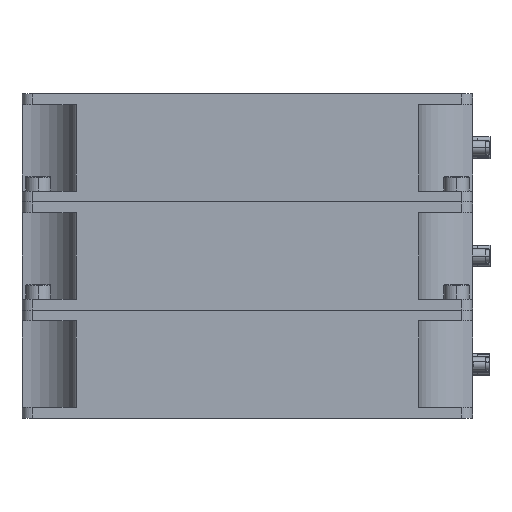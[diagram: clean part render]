
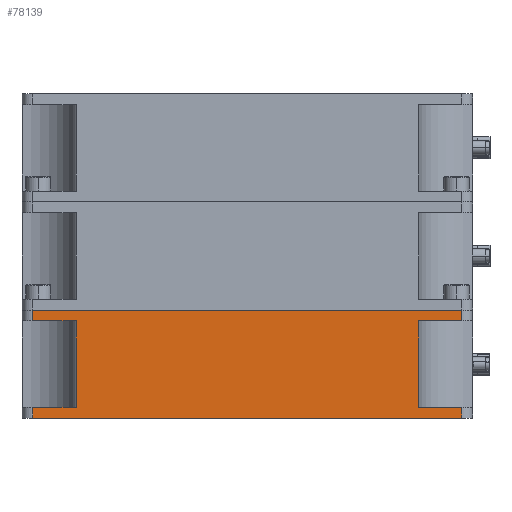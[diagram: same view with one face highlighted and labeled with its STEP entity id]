
A CAD part, left-side view. The second image highlights one B-rep face of the part: STEP entity #78139.
In plain terms, the highlighted planar face has unit normal (-1, 0, 0).
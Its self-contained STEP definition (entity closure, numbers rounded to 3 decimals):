
#281 = AXIS2_PLACEMENT_3D ( 'NONE', #26280, #44645, #50762 ) ;
#2052 = VECTOR ( 'NONE', #16297, 1000. ) ;
#2968 = CARTESIAN_POINT ( 'NONE',  ( -103.713, 72.841, 188. ) ) ;
#3334 = VECTOR ( 'NONE', #9854, 1000. ) ;
#3605 = ORIENTED_EDGE ( 'NONE', *, *, #17018, .T. ) ;
#5689 = DIRECTION ( 'NONE',  ( 0., 0., 1. ) ) ;
#6240 = LINE ( 'NONE', #14133, #46268 ) ;
#6539 = VERTEX_POINT ( 'NONE', #62494 ) ;
#7751 = VECTOR ( 'NONE', #29909, 1000. ) ;
#7815 = EDGE_CURVE ( 'NONE', #71233, #49829, #21484, .T. ) ;
#8037 = CARTESIAN_POINT ( 'NONE',  ( -103.713, 69.841, 215. ) ) ;
#9497 = ORIENTED_EDGE ( 'NONE', *, *, #58119, .T. ) ;
#9854 = DIRECTION ( 'NONE',  ( 0., 0., 1. ) ) ;
#10855 = EDGE_CURVE ( 'NONE', #38573, #71233, #55423, .T. ) ;
#11038 = EDGE_CURVE ( 'NONE', #61583, #38661, #35418, .T. ) ;
#12118 = CARTESIAN_POINT ( 'NONE',  ( -103.713, -37.159, 212. ) ) ;
#12220 = ORIENTED_EDGE ( 'NONE', *, *, #7815, .T. ) ;
#14133 = CARTESIAN_POINT ( 'NONE',  ( -103.713, 72.841, 212. ) ) ;
#14461 = DIRECTION ( 'NONE',  ( 0., -1., 0. ) ) ;
#15371 = ORIENTED_EDGE ( 'NONE', *, *, #41896, .F. ) ;
#15669 = CARTESIAN_POINT ( 'NONE',  ( -103.713, -49.159, 215. ) ) ;
#15739 = CARTESIAN_POINT ( 'NONE',  ( -103.713, -37.159, 200. ) ) ;
#16297 = DIRECTION ( 'NONE',  ( 0., 0., -1. ) ) ;
#16468 = VECTOR ( 'NONE', #14461, 1000. ) ;
#16662 = DIRECTION ( 'NONE',  ( 0., 1., 0. ) ) ;
#16937 = CARTESIAN_POINT ( 'NONE',  ( -103.713, -49.159, 215. ) ) ;
#17003 = DIRECTION ( 'NONE',  ( 0., 1., 0. ) ) ;
#17018 = EDGE_CURVE ( 'NONE', #53503, #6539, #23166, .T. ) ;
#17330 = VECTOR ( 'NONE', #52918, 1000. ) ;
#17707 = CARTESIAN_POINT ( 'NONE',  ( -103.713, -37.159, 188. ) ) ;
#17735 = CARTESIAN_POINT ( 'NONE',  ( -103.713, 57.841, 200. ) ) ;
#18837 = VECTOR ( 'NONE', #17003, 1000. ) ;
#19818 = CARTESIAN_POINT ( 'NONE',  ( -103.713, -49.159, 188. ) ) ;
#20702 = LINE ( 'NONE', #16937, #59786 ) ;
#21484 = LINE ( 'NONE', #15739, #3334 ) ;
#23166 = LINE ( 'NONE', #17735, #62153 ) ;
#24357 = DIRECTION ( 'NONE',  ( 0., 0., -1. ) ) ;
#25727 = ORIENTED_EDGE ( 'NONE', *, *, #28405, .T. ) ;
#26280 = CARTESIAN_POINT ( 'NONE',  ( -103.713, 72.841, 215. ) ) ;
#26811 = LINE ( 'NONE', #40432, #2052 ) ;
#28390 = DIRECTION ( 'NONE',  ( 0., -1., 0. ) ) ;
#28405 = EDGE_CURVE ( 'NONE', #56632, #48265, #66862, .T. ) ;
#28850 = CARTESIAN_POINT ( 'NONE',  ( -103.713, 72.841, 188. ) ) ;
#28880 = EDGE_CURVE ( 'NONE', #46708, #52101, #59150, .T. ) ;
#29597 = LINE ( 'NONE', #64880, #60100 ) ;
#29909 = DIRECTION ( 'NONE',  ( 0., 0., -1. ) ) ;
#30474 = CARTESIAN_POINT ( 'NONE',  ( -103.713, 57.841, 212. ) ) ;
#35418 = LINE ( 'NONE', #38117, #16468 ) ;
#35992 = CARTESIAN_POINT ( 'NONE',  ( -103.713, 69.841, 185. ) ) ;
#36823 = VERTEX_POINT ( 'NONE', #40286 ) ;
#37862 = ORIENTED_EDGE ( 'NONE', *, *, #63263, .T. ) ;
#38117 = CARTESIAN_POINT ( 'NONE',  ( -103.713, 72.841, 185. ) ) ;
#38573 = VERTEX_POINT ( 'NONE', #19818 ) ;
#38575 = VECTOR ( 'NONE', #63058, 1000. ) ;
#38661 = VERTEX_POINT ( 'NONE', #45071 ) ;
#40286 = CARTESIAN_POINT ( 'NONE',  ( -103.713, 69.841, 188. ) ) ;
#40432 = CARTESIAN_POINT ( 'NONE',  ( -103.713, 69.841, 215. ) ) ;
#41612 = LINE ( 'NONE', #2968, #18837 ) ;
#41896 = EDGE_CURVE ( 'NONE', #46708, #48265, #67186, .T. ) ;
#43663 = DIRECTION ( 'NONE',  ( 0., -1., 0. ) ) ;
#44645 = DIRECTION ( 'NONE',  ( 1., 0., 0. ) ) ;
#45071 = CARTESIAN_POINT ( 'NONE',  ( -103.713, -49.159, 185. ) ) ;
#45906 = EDGE_CURVE ( 'NONE', #52101, #53503, #29597, .T. ) ;
#46268 = VECTOR ( 'NONE', #43663, 1000. ) ;
#46708 = VERTEX_POINT ( 'NONE', #8037 ) ;
#47763 = CARTESIAN_POINT ( 'NONE',  ( -103.713, 69.841, 215. ) ) ;
#48265 = VERTEX_POINT ( 'NONE', #15669 ) ;
#48346 = ORIENTED_EDGE ( 'NONE', *, *, #45906, .T. ) ;
#48829 = CARTESIAN_POINT ( 'NONE',  ( -103.713, 69.841, 212. ) ) ;
#49829 = VERTEX_POINT ( 'NONE', #12118 ) ;
#50762 = DIRECTION ( 'NONE',  ( 0., 0., -1. ) ) ;
#52101 = VERTEX_POINT ( 'NONE', #48829 ) ;
#52725 = EDGE_CURVE ( 'NONE', #49829, #56632, #6240, .T. ) ;
#52918 = DIRECTION ( 'NONE',  ( 0., 0., 1. ) ) ;
#53503 = VERTEX_POINT ( 'NONE', #30474 ) ;
#53713 = CARTESIAN_POINT ( 'NONE',  ( -103.713, -49.159, 215. ) ) ;
#54643 = ORIENTED_EDGE ( 'NONE', *, *, #52725, .T. ) ;
#55423 = LINE ( 'NONE', #28850, #69748 ) ;
#55870 = CARTESIAN_POINT ( 'NONE',  ( -103.713, 72.841, 215. ) ) ;
#56622 = PLANE ( 'NONE',  #281 ) ;
#56632 = VERTEX_POINT ( 'NONE', #71958 ) ;
#58119 = EDGE_CURVE ( 'NONE', #38661, #38573, #20702, .T. ) ;
#58357 = FACE_OUTER_BOUND ( 'NONE', #63900, .T. ) ;
#58645 = ORIENTED_EDGE ( 'NONE', *, *, #74188, .T. ) ;
#59150 = LINE ( 'NONE', #47763, #7751 ) ;
#59786 = VECTOR ( 'NONE', #5689, 1000. ) ;
#60100 = VECTOR ( 'NONE', #28390, 1000. ) ;
#61583 = VERTEX_POINT ( 'NONE', #35992 ) ;
#62153 = VECTOR ( 'NONE', #24357, 1000. ) ;
#62494 = CARTESIAN_POINT ( 'NONE',  ( -103.713, 57.841, 188. ) ) ;
#63058 = DIRECTION ( 'NONE',  ( 0., -1., 0. ) ) ;
#63263 = EDGE_CURVE ( 'NONE', #36823, #61583, #26811, .T. ) ;
#63900 = EDGE_LOOP ( 'NONE', ( #72351, #9497, #70328, #12220, #54643, #25727, #15371, #64048, #48346, #3605, #58645, #37862 ) ) ;
#64048 = ORIENTED_EDGE ( 'NONE', *, *, #28880, .T. ) ;
#64880 = CARTESIAN_POINT ( 'NONE',  ( -103.713, 72.841, 212. ) ) ;
#66862 = LINE ( 'NONE', #53713, #17330 ) ;
#67186 = LINE ( 'NONE', #55870, #38575 ) ;
#69748 = VECTOR ( 'NONE', #16662, 1000. ) ;
#70328 = ORIENTED_EDGE ( 'NONE', *, *, #10855, .T. ) ;
#71233 = VERTEX_POINT ( 'NONE', #17707 ) ;
#71958 = CARTESIAN_POINT ( 'NONE',  ( -103.713, -49.159, 212. ) ) ;
#72351 = ORIENTED_EDGE ( 'NONE', *, *, #11038, .T. ) ;
#74188 = EDGE_CURVE ( 'NONE', #6539, #36823, #41612, .T. ) ;
#78139 = ADVANCED_FACE ( 'NONE', ( #58357 ), #56622, .F. ) ;
